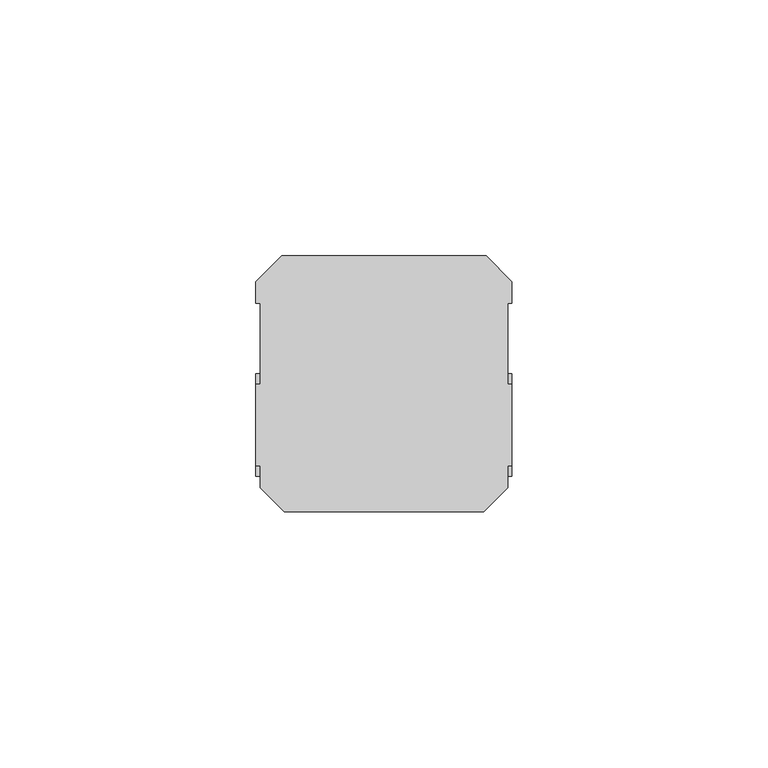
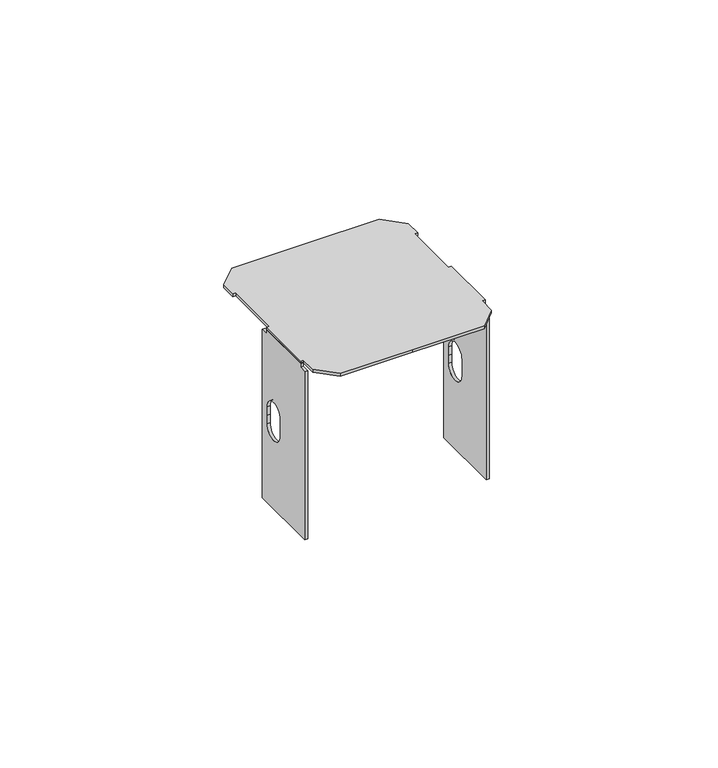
"""IFC4 building model written with IfcOpenShell, lengths in millimetres: proxy geometry, Cable_Tray_FinalCover_TFERE 50_Basortray : Basortray TFERE 50-GS."""

from ifc_helpers import new_model, si_unit, point, frame, frame_2d, origin, origin_with_axes, place, context, project, spatial, polyline, circle_curve, trimmed, segment, composite_curve, outline, extrude, source, transform, mapped, element, save


def generic_models_4b91ea04(model_context):
    return source(origin(), model_context, "Body", "SweptSolid", [
        extrude(outline(polyline([(-17.9809619, -49.2), (-17.9809619, -1.0), (-15.9809619, -1.0), (-15.9809619, 0.0), (-0.0193752, 0.0), (-0.0193752, -1.0), (1.9806248, -1.0), (1.9806248, -49.2), (-17.9809619, -49.2)]), holes=[composite_curve([segment(polyline([(-6.3119259, -21.8003614), (-6.3119259, -24.2), (-6.3119259, -26.5996386)]), True, "CONTINUOUS"), segment(trimmed(circle_curve(frame_2d((-3.3119259, -26.5996386)), 3.0), [point((-6.3119259, -26.5996386))], [point((-0.3119259, -26.5996386))], True, "CARTESIAN"), True, "CONTINUOUS"), segment(polyline([(-0.3119259, -26.5996386), (-0.3119259, -24.2), (-0.3119259, -21.8003614)]), True, "CONTINUOUS"), segment(trimmed(circle_curve(frame_2d((-3.3119259, -21.8003614)), 3.0), [point((-0.3119259, -21.8003614))], [point((-6.3119259, -21.8003614))], True, "CARTESIAN"), True, "CONTINUOUS")], self_intersect=False)]), frame((-25.0, 0.0, 0.0), z_axis=(1.0, 0.0, 0.0), x_axis=(0.0, 1.0, 0.0)), (0.0, 0.0, 1.0), 0.8),
        extrude(outline(polyline([(-20.0, 25.0), (0.0, 25.0), (20.0, 25.0), (25.0, 20.0), (25.0, 15.7404908), (24.2, 15.7404908), (24.2, -0.0193752), (25.0, -0.0193752), (25.0, -15.9809619), (24.2, -15.9809619), (24.2, -20.294338), (19.494338, -25.0), (0.0, -25.0), (-19.494338, -25.0), (-24.2, -20.294338), (-24.2, -15.9809619), (-25.0, -15.9809619), (-25.0, -0.0193752), (-24.2, -0.0193752), (-24.2, 15.7404908), (-25.0, 15.7404908), (-25.0, 20.0), (-20.0, 25.0)])), origin_with_axes(), (0.0, 0.0, 1.0), 0.8),
        extrude(outline(polyline([(-17.9809619, -49.2), (-17.9809619, -1.0), (-15.9809619, -1.0), (-15.9809619, 0.0), (-0.0193752, 0.0), (-0.0193752, -1.0), (1.9806248, -1.0), (1.9806248, -49.2), (-17.9809619, -49.2)]), holes=[composite_curve([segment(polyline([(-6.3119259, -21.8003614), (-6.3119259, -24.2), (-6.3119259, -26.5996386)]), True, "CONTINUOUS"), segment(trimmed(circle_curve(frame_2d((-3.3119259, -26.5996386)), 3.0), [point((-6.3119259, -26.5996386))], [point((-0.3119259, -26.5996386))], True, "CARTESIAN"), True, "CONTINUOUS"), segment(polyline([(-0.3119259, -26.5996386), (-0.3119259, -24.2), (-0.3119259, -21.8003614)]), True, "CONTINUOUS"), segment(trimmed(circle_curve(frame_2d((-3.3119259, -21.8003614)), 3.0), [point((-0.3119259, -21.8003614))], [point((-6.3119259, -21.8003614))], True, "CARTESIAN"), True, "CONTINUOUS")], self_intersect=False)]), frame((24.2, 0.0, 0.0), z_axis=(1.0, 0.0, 0.0), x_axis=(0.0, 1.0, 0.0)), (0.0, 0.0, 1.0), 0.8),
    ])


if __name__ == "__main__":
    model = new_model("IFC4")
    model_context = context("Model", 3, world=origin())
    ifc_project = project(units=[si_unit("LENGTHUNIT", "METRE", prefix="MILLI")], contexts=[model_context])
    site = spatial("IfcSite", under=ifc_project)
    building = spatial("IfcBuilding", under=site)
    placement = place(None, origin())
    generic_models_shape = generic_models_4b91ea04(model_context)
    element("IfcBuildingElementProxy", 1, Name="Cable_Tray_FinalCover_TFERE 50_Basortray : Basortray TFERE 50-GS", ObjectType="Cable_Tray_FinalCover_TFERE 50_Basortray : Basortray TFERE 50-GS", at=placement, inside=building, context=model_context, shape_type="MappedRepresentation", body=[
        mapped(generic_models_shape, transform((0.0, 0.0, 0.0), x_axis=(1.0, 0.0, 0.0), y_axis=(0.0, 1.0, 0.0), z_axis=(0.0, 0.0, 1.0))),
    ])
    save(model, "model.ifc")
